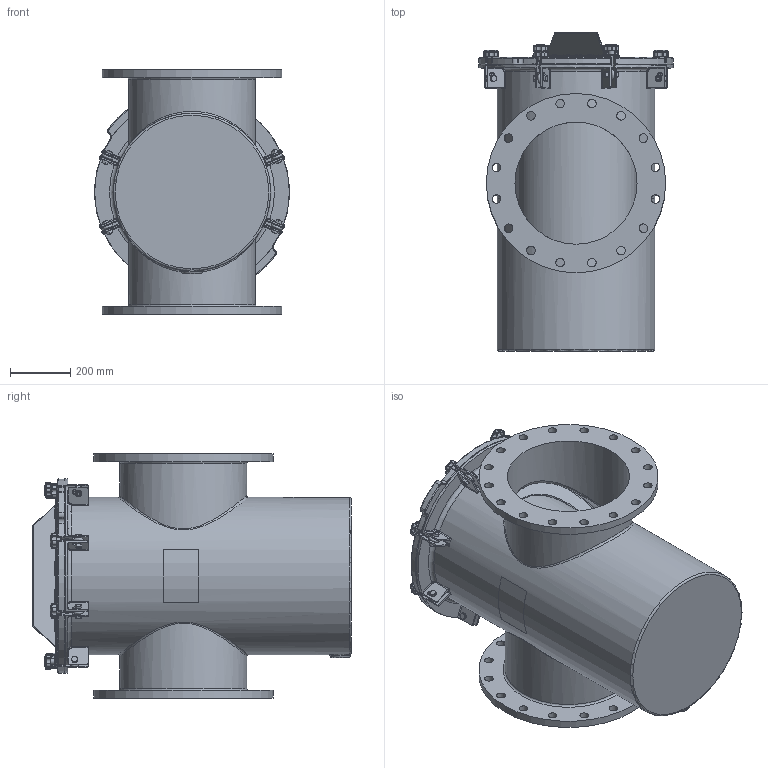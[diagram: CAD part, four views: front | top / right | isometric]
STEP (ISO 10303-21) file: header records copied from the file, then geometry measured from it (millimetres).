
FILE_DESCRIPTION(/* description */ ('STRAINER BODY'),/* implementation_level */ '2;1');
FILE_NAME(/* name */ 'Z:\Output\Strainers\11-14-2016\CAD\1500NBFG16R1.stp',/* time_stamp */ '2016-11-16T20:08:01+06:00',/* author */ ('20093558'),/* organization */ (''),/* preprocessor_version */ 'ST-DEVELOPER v16.1',/* originating_system */ 'Autodesk Inventor 2016',/* authorisation */ '');
FILE_SCHEMA (('AUTOMOTIVE_DESIGN { 1 0 10303 214 3 1 1 }'));
Length unit declared in the file: inch
Products named in the file (24): NBFG16BODYR1; 150NBCVR22R2; 150NBGSK20R1; Perforated Basket 20in; Bride (Ring) 20in; Baffle 20in; Handle 20in; Bottom Strainer 20in; NBBSK16T316; BRACESTRCVR20_Welds; BRACE (BASE) FOR 20 BODY; BRACE (PROJ) FOR 20 BODY; Bumper; BRACESTRCVR20; Nut- 1_2  UNC; Bolt-1_2 x 1 1_2  UNC; EyeBolt; Washer; Knob M10; Securing Assembly For FG  with Brace; Securing Assembly For FG without Brace; Label for 20.625 inch (Right); Label for 20.625 inch (Left); Guardian FG H&L Strainer (Inch)
Assembly tree (39 placements, depth 3):
  Guardian FG H&L Strainer (Inch)
    NBFG16BODYR1
    150NBCVR22R2
    150NBGSK20R1
    NBBSK16T316
      Perforated Basket 20in
      Bride (Ring) 20in
      Baffle 20in
      Handle 20in
      Bottom Strainer 20in
    BRACESTRCVR20
      BRACESTRCVR20_Welds
      BRACE (BASE) FOR 20 BODY
      BRACE (PROJ) FOR 20 BODY
      Bumper  x6
    Securing Assembly For FG  with Brace  x2
      Nut- 1_2  UNC
      Bolt-1_2 x 1 1_2  UNC
      EyeBolt
      Washer
      Knob M10
    Securing Assembly For FG without Brace  x6
      Nut- 1_2  UNC
      Bolt-1_2 x 1 1_2  UNC
      EyeBolt
      Washer
      Knob M10
    Label for 20.625 inch (Right)
    Label for 20.625 inch (Left)
Bounding box: 647.7 x 1060.45 x 812.8 mm (x, y, z)
Volume: 35638619.9 mm3; surface area: 8591851.7 mm2
Topology: 68 solids, 68 shells, 1856 faces, 4252 edges, 2521 vertices
Faces by surface type: cylinder 691, plane 515, cone 184, torus 171, sphere 158, bspline 137
Full cylindrical faces by diameter (mm): 3.175 x11, 6.35 x1, 8.382 x8, 9.525 x16, 10.592 x8, 12.7 x8, 15.875 x16, 19 x16, 19.05 x8, 22.809 x1, 28.575 x32, 31.75 x8, 403.225 x2, 406.4 x3, 408.94 x1, 422.275 x2, 508 x2, 511.175 x1, 514.35 x1, 523.875 x1, 577.85 x1, 584.2 x1, 596.9 x2
Entity records: 35925 total; most frequent: CARTESIAN_POINT 11858, DIRECTION 4947, ORIENTED_EDGE 4556, EDGE_CURVE 2278, AXIS2_PLACEMENT_3D 2016, VERTEX_POINT 1439, EDGE_LOOP 1253, ADVANCED_FACE 1006
